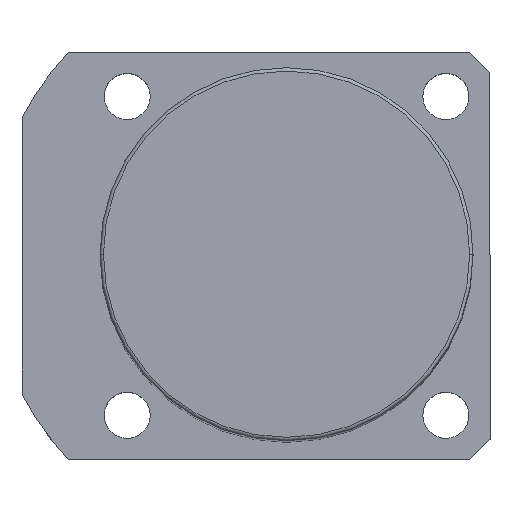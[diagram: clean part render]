
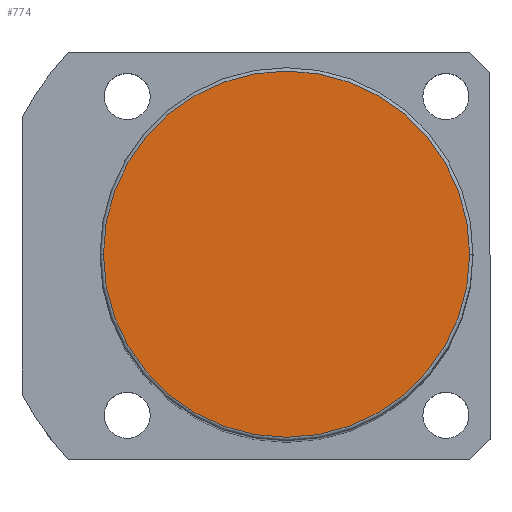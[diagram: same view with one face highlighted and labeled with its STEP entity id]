
A CAD part, top view. The second image highlights one B-rep face of the part: STEP entity #774.
In plain terms, the highlighted planar face has unit normal (0, 0, 1).
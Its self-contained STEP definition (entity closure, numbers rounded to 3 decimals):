
#10 = CIRCLE ( 'NONE', #946, 27. ) ;
#104 = FACE_OUTER_BOUND ( 'NONE', #1058, .T. ) ;
#236 = ORIENTED_EDGE ( 'NONE', *, *, #1663, .T. ) ;
#276 = VERTEX_POINT ( 'NONE', #1052 ) ;
#392 = DIRECTION ( 'NONE',  ( 1., 0., 0. ) ) ;
#651 = VERTEX_POINT ( 'NONE', #1715 ) ;
#747 = ORIENTED_EDGE ( 'NONE', *, *, #757, .T. ) ;
#757 = EDGE_CURVE ( 'NONE', #276, #651, #10, .T. ) ;
#774 = ADVANCED_FACE ( 'NONE', ( #104 ), #895, .T. ) ;
#864 = CARTESIAN_POINT ( 'NONE',  ( 0., 0., 151. ) ) ;
#895 = PLANE ( 'NONE',  #1744 ) ;
#946 = AXIS2_PLACEMENT_3D ( 'NONE', #1759, #1738, #392 ) ;
#1052 = CARTESIAN_POINT ( 'NONE',  ( -27., 0., 151. ) ) ;
#1058 = EDGE_LOOP ( 'NONE', ( #236, #747 ) ) ;
#1244 = DIRECTION ( 'NONE',  ( 0., 0., 1. ) ) ;
#1603 = CIRCLE ( 'NONE', #1716, 27. ) ;
#1663 = EDGE_CURVE ( 'NONE', #651, #276, #1603, .T. ) ;
#1696 = DIRECTION ( 'NONE',  ( 1., 0., 0. ) ) ;
#1715 = CARTESIAN_POINT ( 'NONE',  ( 27., 0., 151. ) ) ;
#1716 = AXIS2_PLACEMENT_3D ( 'NONE', #864, #2053, #1696 ) ;
#1730 = CARTESIAN_POINT ( 'NONE',  ( 0., 0., 151. ) ) ;
#1738 = DIRECTION ( 'NONE',  ( 0., 0., 1. ) ) ;
#1744 = AXIS2_PLACEMENT_3D ( 'NONE', #1730, #1244, #2096 ) ;
#1759 = CARTESIAN_POINT ( 'NONE',  ( 0., 0., 151. ) ) ;
#2053 = DIRECTION ( 'NONE',  ( 0., 0., 1. ) ) ;
#2096 = DIRECTION ( 'NONE',  ( 1., 0., 0. ) ) ;
